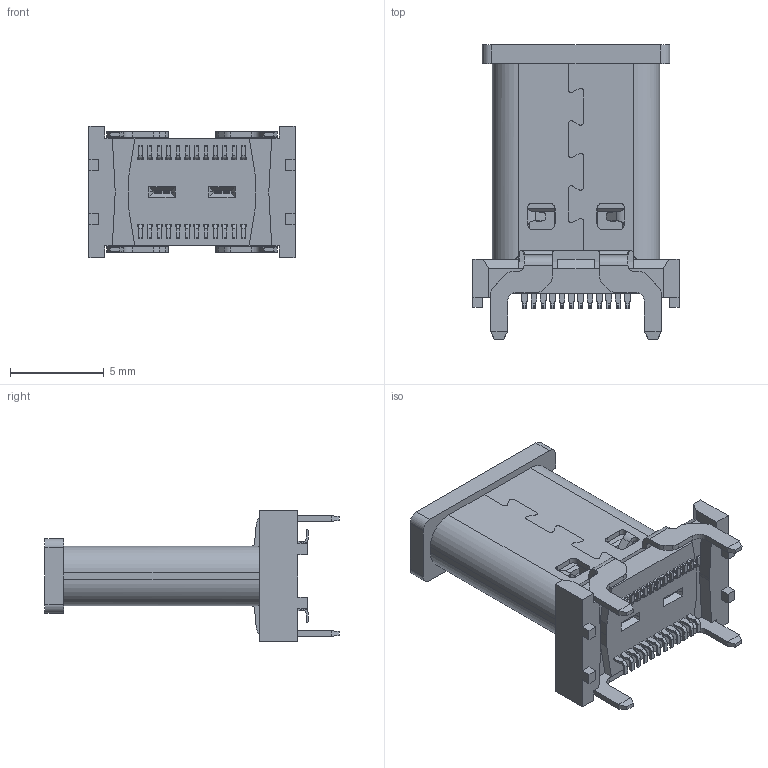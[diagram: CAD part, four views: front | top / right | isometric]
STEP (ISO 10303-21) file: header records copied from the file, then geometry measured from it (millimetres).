
FILE_DESCRIPTION (( 'STEP AP203' ), '1' );
FILE_NAME ('GT-USB-7028B.stp', '2023-02-28T07:36:15', ( '' ), ( '' ), 'SwSTEP 2.0', 'SolidWorks 2021', '' );
FILE_SCHEMA (( 'CONFIG_CONTROL_DESIGN' ));
Length unit declared in the file: millimetre
Products named in the file (1): GT-USB-7028B
Bounding box: 11 x 15.7 x 7 mm (x, y, z)
Volume: 349.9 mm3; surface area: 1211 mm2
Topology: 3 solids, 139 shells, 2611 faces, 6716 edges, 4398 vertices
Faces by surface type: plane 1918, cylinder 509, bspline 95, cone 70, torus 19
Entity records: 83745 total; most frequent: CARTESIAN_POINT 20356, ORIENTED_EDGE 13432, DIRECTION 12353, EDGE_CURVE 6716, LINE 5249, VECTOR 5249, VERTEX_POINT 4398, AXIS2_PLACEMENT_3D 3552
